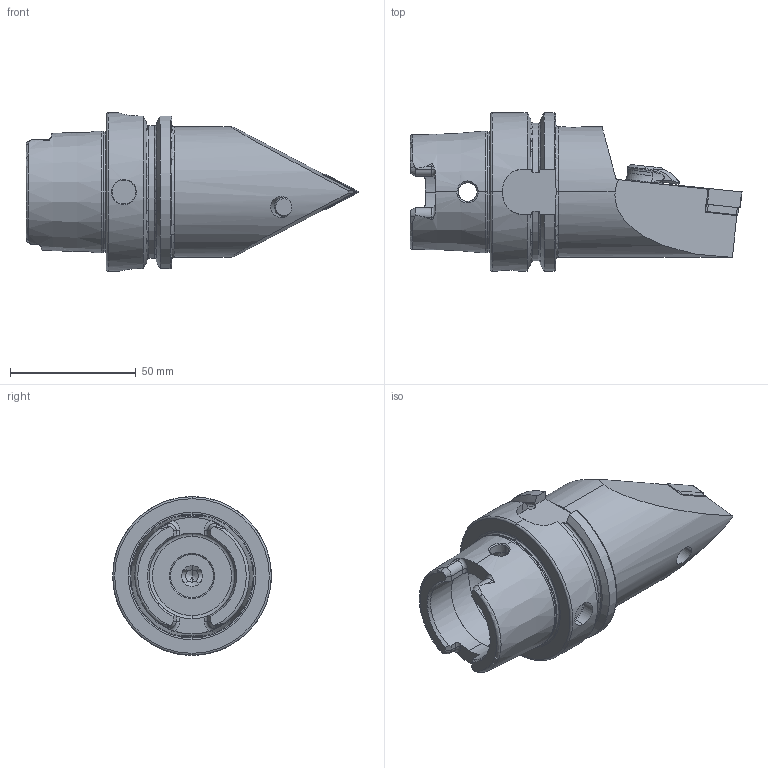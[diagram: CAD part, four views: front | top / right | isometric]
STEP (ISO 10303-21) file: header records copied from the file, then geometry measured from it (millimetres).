
FILE_DESCRIPTION (( 'STEP AP214' ), '1' );
FILE_NAME ('-PD..NNA.100-HP.STEP', '2022-09-26T13:58:34', ( '' ), ( '' ), 'SwSTEP 2.0', 'SolidWorks 2017', '' );
FILE_SCHEMA (( 'AUTOMOTIVE_DESIGN' ));
Length unit declared in the file: millimetre
Products named in the file (14): DIN 3771 - 6.5x1.5; CHP-PCX.000.022_D《e; ISO 8752 2x8; WDF-ER3.101.000_A; CHP-PCX.000.022_B; DIN 3771 - 13x1; HA6-PDF.NNA.100-HP_D; DIN 7991 - M5x18; WCD-ER1.101.000; WCD-ER4.101.017_A; WDF-ER2.101.003_A; DNMG150604; CHP-ER1.008.014_A; -PD..NNA.100-HP
Assembly tree (13 placements, depth 3):
  -PD..NNA.100-HP
    HA6-PDF.NNA.100-HP_D
    WDF-ER3.101.000_A
    WCD-ER1.101.000
    WCD-ER4.101.017_A
    WDF-ER2.101.003_A
    CHP-PCX.000.022_D《e
      DIN 3771 - 13x1
      DIN 3771 - 6.5x1.5
      CHP-PCX.000.022_B
      DIN 7991 - M5x18
    CHP-ER1.008.014_A
    ISO 8752 2x8
    DNMG150604
Bounding box: 131.9 x 63 x 63 mm (x, y, z)
Volume: 160968.6 mm3; surface area: 37940.9 mm2
Topology: 12 solids, 12 shells, 583 faces, 1478 edges, 903 vertices
Faces by surface type: plane 166, cylinder 163, cone 123, torus 69, bspline 62
Entity records: 23338 total; most frequent: CARTESIAN_POINT 8832, ORIENTED_EDGE 2916, DIRECTION 2615, EDGE_CURVE 1458, AXIS2_PLACEMENT_3D 1035, VERTEX_POINT 903, EDGE_LOOP 613, FACE_OUTER_BOUND 583
